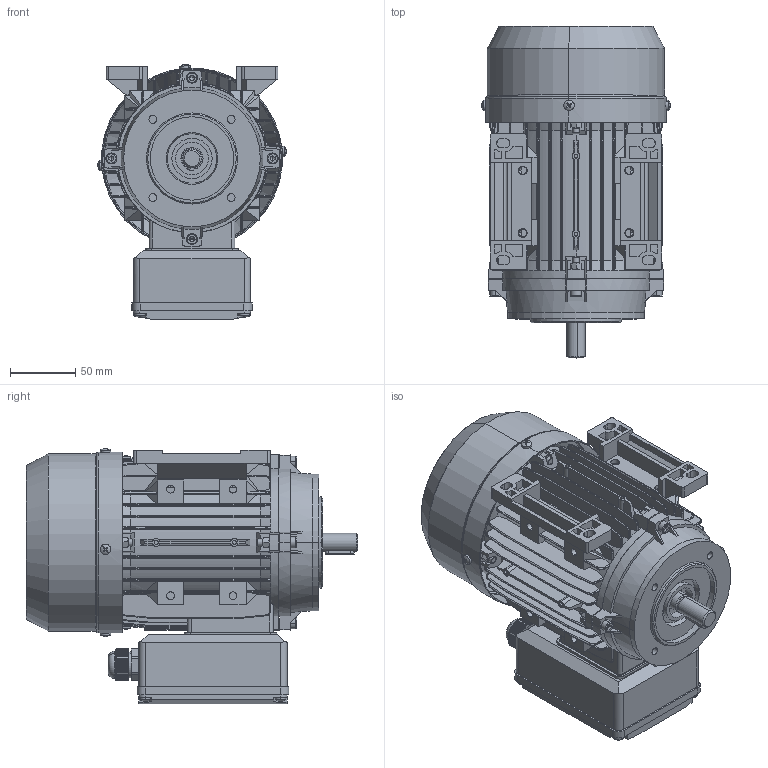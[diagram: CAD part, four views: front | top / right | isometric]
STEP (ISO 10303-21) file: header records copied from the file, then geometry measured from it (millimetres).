
FILE_DESCRIPTION (( 'STEP AP214' ), '1' );
FILE_NAME ('BMM0055.07D434.11.step', '2020-04-23T12:48:34', ( '' ), ( '' ), 'SwSTEP 2.0', 'SolidWorks 2019', '' );
FILE_SCHEMA (( 'AUTOMOTIVE_DESIGN' ));
Length unit declared in the file: millimetre
Products named in the file (1): BMM0055.07D434.11
Bounding box: 144.92 x 255 x 196.46 mm (x, y, z)
Volume: 696855 mm3; surface area: 533993 mm2
Topology: 35 solids, 35 shells, 3639 faces, 9588 edges, 6017 vertices
Faces by surface type: plane 1959, cylinder 1061, cone 217, torus 142, bspline 142, sphere 118
Entity records: 128084 total; most frequent: CARTESIAN_POINT 39726, ORIENTED_EDGE 19012, DIRECTION 17484, EDGE_CURVE 9506, AXIS2_PLACEMENT_3D 6019, VERTEX_POINT 6017, LINE 5446, VECTOR 5446
